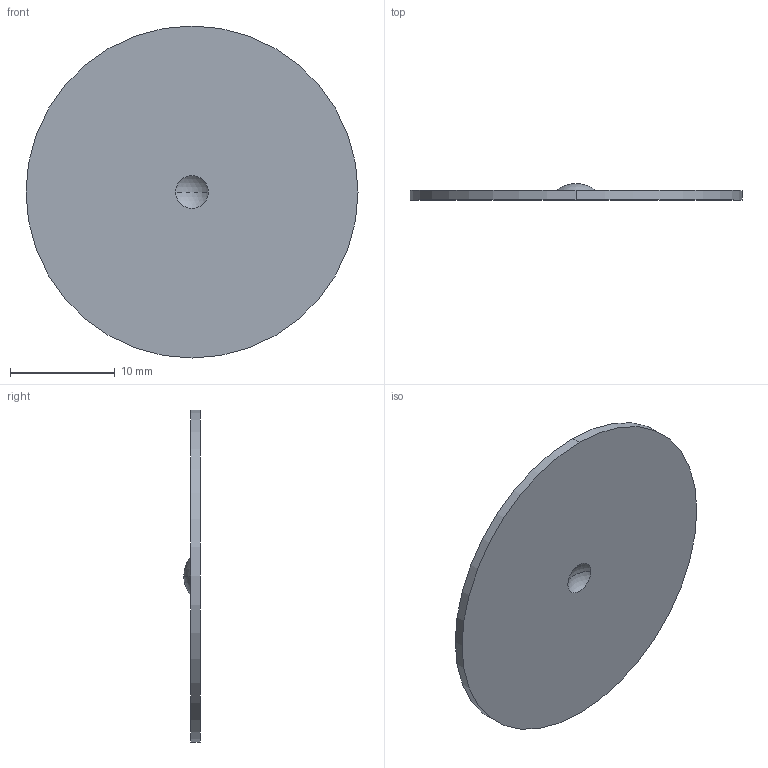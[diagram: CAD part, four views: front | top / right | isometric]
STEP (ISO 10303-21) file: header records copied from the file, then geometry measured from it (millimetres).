
FILE_DESCRIPTION (( 'STEP AP214' ), '1' );
FILE_NAME ('1800059-10.STEP', '2024-11-13T15:16:59', ( '' ), ( '' ), 'SwSTEP 2.0', 'SolidWorks 2024', '' );
FILE_SCHEMA (( 'AUTOMOTIVE_DESIGN' ));
Length unit declared in the file: inch
Products named in the file (1): 1800059-10
Bounding box: 31.75 x 1.57 x 31.75 mm (x, y, z)
Volume: 725.2 mm3; surface area: 1677.4 mm2
Topology: 1 solids, 1 shells, 8 faces, 14 edges, 10 vertices
Faces by surface type: sphere 4, cylinder 2, plane 2
Entity records: 233 total; most frequent: DIRECTION 44, CARTESIAN_POINT 33, ORIENTED_EDGE 28, AXIS2_PLACEMENT_3D 21, EDGE_CURVE 14, CIRCLE 12, EDGE_LOOP 10, VERTEX_POINT 10
